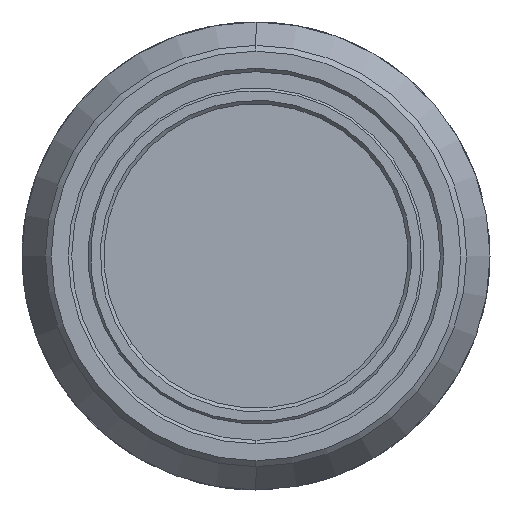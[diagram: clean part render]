
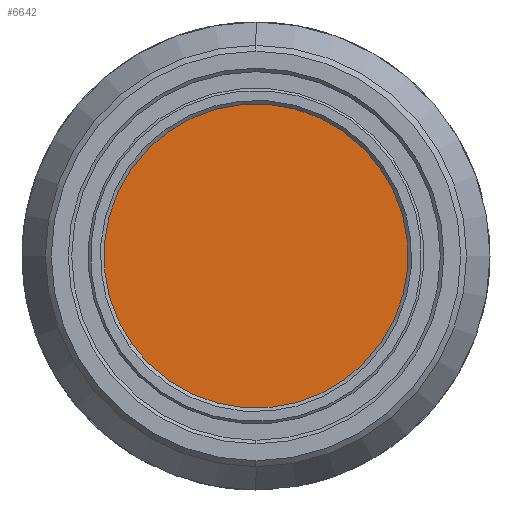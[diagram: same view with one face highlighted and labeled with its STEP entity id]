
A CAD part, left-side view. The second image highlights one B-rep face of the part: STEP entity #6642.
In plain terms, the highlighted planar face has unit normal (-1, 0, 0).
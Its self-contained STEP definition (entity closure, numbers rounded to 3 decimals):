
#15 = CIRCLE ( 'NONE', #4393, 13. ) ;
#64 = ORIENTED_EDGE ( 'NONE', *, *, #3592, .F. ) ;
#277 = DIRECTION ( 'NONE',  ( 1., 0., 0. ) ) ;
#606 = DIRECTION ( 'NONE',  ( 0., 0., 1. ) ) ;
#815 = CARTESIAN_POINT ( 'NONE',  ( 3.626, -10.611, 7.511 ) ) ;
#1270 = DIRECTION ( 'NONE',  ( 0., 0., 1. ) ) ;
#1868 = VERTEX_POINT ( 'NONE', #3325 ) ;
#2024 = VERTEX_POINT ( 'NONE', #815 ) ;
#2376 = CARTESIAN_POINT ( 'NONE',  ( 3.626, 0., 0. ) ) ;
#2584 = PLANE ( 'NONE',  #4093 ) ;
#2810 = DIRECTION ( 'NONE',  ( 1., 0., 0. ) ) ;
#3221 = DIRECTION ( 'NONE',  ( -1., 0., 0. ) ) ;
#3325 = CARTESIAN_POINT ( 'NONE',  ( 3.626, 10.611, -7.511 ) ) ;
#3592 = EDGE_CURVE ( 'NONE', #2024, #1868, #15, .T. ) ;
#3905 = DIRECTION ( 'NONE',  ( 0., 0., 1. ) ) ;
#3938 = EDGE_LOOP ( 'NONE', ( #3978, #64 ) ) ;
#3953 = FACE_OUTER_BOUND ( 'NONE', #3938, .T. ) ;
#3978 = ORIENTED_EDGE ( 'NONE', *, *, #5057, .F. ) ;
#4093 = AXIS2_PLACEMENT_3D ( 'NONE', #6236, #3221, #606 ) ;
#4393 = AXIS2_PLACEMENT_3D ( 'NONE', #5408, #2810, #1270 ) ;
#5051 = CIRCLE ( 'NONE', #6064, 13. ) ;
#5057 = EDGE_CURVE ( 'NONE', #1868, #2024, #5051, .T. ) ;
#5408 = CARTESIAN_POINT ( 'NONE',  ( 3.626, 0., 0. ) ) ;
#6064 = AXIS2_PLACEMENT_3D ( 'NONE', #2376, #277, #3905 ) ;
#6236 = CARTESIAN_POINT ( 'NONE',  ( 3.626, 0., 0. ) ) ;
#6642 = ADVANCED_FACE ( 'NONE', ( #3953 ), #2584, .T. ) ;
